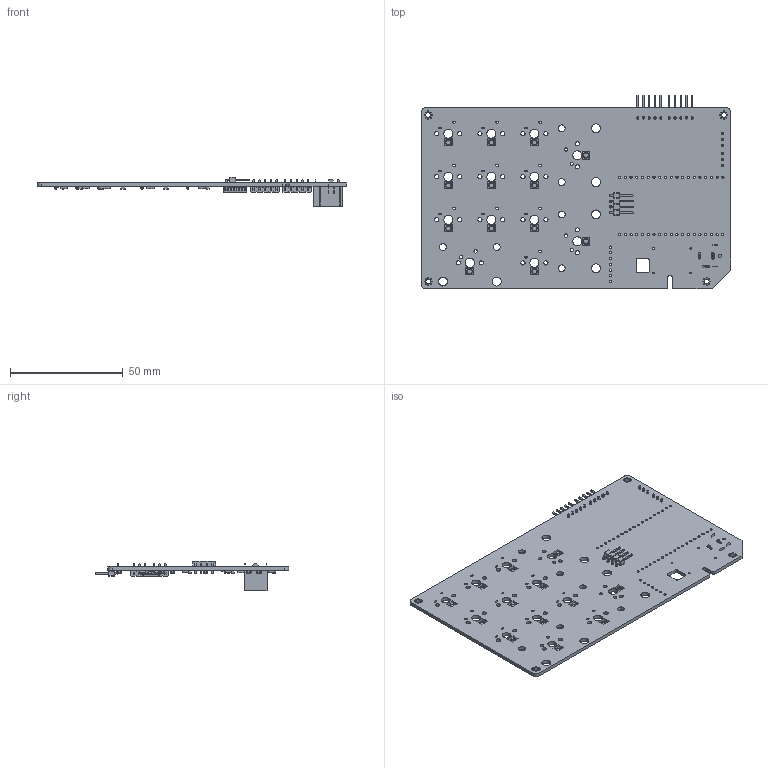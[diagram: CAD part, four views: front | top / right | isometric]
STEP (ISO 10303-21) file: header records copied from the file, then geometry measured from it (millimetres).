
FILE_DESCRIPTION(('KiCad electronic assembly'),'2;1');
FILE_NAME('alarmkeypad.step','2020-11-17T12:39:39',('An Author'),( 'A Company'),'Open CASCADE STEP processor 6.9', 'KiCad to STEP converter','Unknown');
FILE_SCHEMA(('AUTOMOTIVE_DESIGN { 1 0 10303 214 1 1 1 1 }'));
Length unit declared in the file: millimetre
Products named in the file (20): Open CASCADE STEP translator 6.9 1; BarrelJack_CUI_PJ-063AH_Horizontal; COMPOUND; PinHeader_1x05_P2.54mm_Horizontal; SOLID; PinHeader_1x04_P2.54mm_Horizontal; PinHeader_1x03_P2.54mm_Horizontal; R_0805_2012Metric; SOIC-16W_7.5x10.3mm_P1.27mm; YS-SK6812MINI-E; D_MicroMELF; C_0805_2012Metric
Assembly tree (61 placements, depth 3):
  Open CASCADE STEP translator 6.9 1
    BarrelJack_CUI_PJ-063AH_Horizontal
      COMPOUND
    PinHeader_1x05_P2.54mm_Horizontal  x2
      SOLID
    PinHeader_1x04_P2.54mm_Horizontal
      SOLID
    PinHeader_1x03_P2.54mm_Horizontal  x2
      SOLID
    R_0805_2012Metric  x5
      SOLID
    SOIC-16W_7.5x10.3mm_P1.27mm
      SOLID
    YS-SK6812MINI-E  x13
      COMPOUND
    D_MicroMELF  x13
      SOLID
    C_0805_2012Metric  x13
      SOLID
    COMPOUND
Bounding box: 137.16 x 85.61 x 13.24 mm (x, y, z)
Volume: 18165.8 mm3; surface area: 26896.9 mm2
Topology: 118 solids, 118 shells, 2512 faces, 6041 edges, 3914 vertices
Faces by surface type: plane 1825, cylinder 607, bspline 40, revolution 26, cone 13, sphere 1
Full cylindrical faces by diameter (mm): 0.4 x32, 0.6 x1, 0.762 x4, 1 x65, 1.05 x26, 1.07 x13, 1.1 x26, 1.25 x13, 1.47 x6, 1.5 x1, 1.75 x6, 1.9 x20, 2 x1, 2.1 x26, 2.2 x4, 3.048 x6, 3.988 x9, 4 x10, 6.5 x1
Entity records: 81732 total; most frequent: CARTESIAN_POINT 13238, DIRECTION 11864, LINE 7629, VECTOR 7629, ORIENTED_EDGE 6048, PCURVE 6048, DEFINITIONAL_REPRESENTATION 6048, EDGE_CURVE 3024
